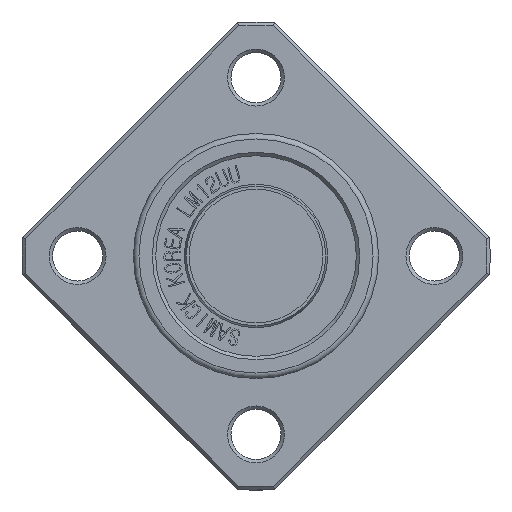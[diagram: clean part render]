
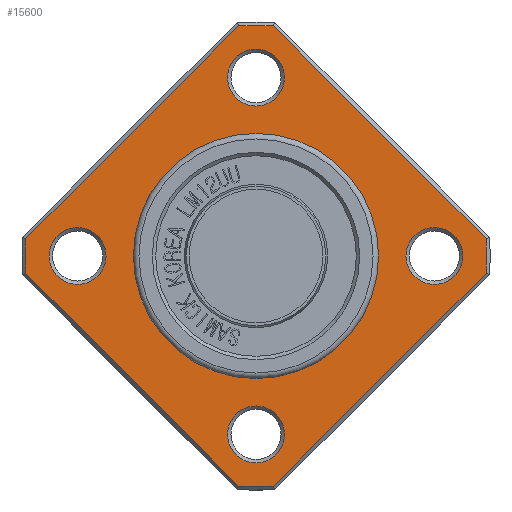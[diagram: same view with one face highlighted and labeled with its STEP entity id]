
A CAD part, front view. The second image highlights one B-rep face of the part: STEP entity #15600.
In plain terms, the highlighted planar face has unit normal (0, -1, 0).
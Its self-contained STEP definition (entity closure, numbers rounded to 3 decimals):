
#2191=FACE_BOUND('',#3366,.T.);
#2192=FACE_BOUND('',#3367,.T.);
#2193=FACE_BOUND('',#3368,.T.);
#2194=FACE_BOUND('',#3369,.T.);
#2195=FACE_BOUND('',#3370,.T.);
#2249=PLANE('',#16500);
#2496=FACE_OUTER_BOUND('',#3365,.T.);
#3365=EDGE_LOOP('',(#10757,#10758,#10759,#10760,#10761,#10762,#10763,#10764));
#3366=EDGE_LOOP('',(#10765));
#3367=EDGE_LOOP('',(#10766));
#3368=EDGE_LOOP('',(#10767,#10768));
#3369=EDGE_LOOP('',(#10769));
#3370=EDGE_LOOP('',(#10770));
#4289=LINE('',#18813,#5447);
#4290=LINE('',#18817,#5448);
#4291=LINE('',#18821,#5449);
#4292=LINE('',#18825,#5450);
#5447=VECTOR('',#16905,10.);
#5448=VECTOR('',#16908,10.);
#5449=VECTOR('',#16911,10.);
#5450=VECTOR('',#16914,10.);
#6612=CIRCLE('',#16498,2.55);
#6614=CIRCLE('',#16501,20.7);
#6615=CIRCLE('',#16502,20.7);
#6616=CIRCLE('',#16503,20.7);
#6617=CIRCLE('',#16504,20.7);
#6618=CIRCLE('',#16505,2.55);
#6619=CIRCLE('',#16506,2.55);
#6620=CIRCLE('',#16507,11.);
#6621=CIRCLE('',#16508,11.);
#6622=CIRCLE('',#16509,2.55);
#6706=VERTEX_POINT('',#18805);
#6708=VERTEX_POINT('',#18811);
#6709=VERTEX_POINT('',#18812);
#6710=VERTEX_POINT('',#18814);
#6711=VERTEX_POINT('',#18816);
#6712=VERTEX_POINT('',#18818);
#6713=VERTEX_POINT('',#18820);
#6714=VERTEX_POINT('',#18822);
#6715=VERTEX_POINT('',#18824);
#6716=VERTEX_POINT('',#18827);
#6717=VERTEX_POINT('',#18829);
#6718=VERTEX_POINT('',#18831);
#6719=VERTEX_POINT('',#18832);
#6720=VERTEX_POINT('',#18835);
#8324=EDGE_CURVE('',#6706,#6706,#6612,.T.);
#8327=EDGE_CURVE('',#6708,#6709,#4289,.T.);
#8328=EDGE_CURVE('',#6708,#6710,#6614,.T.);
#8329=EDGE_CURVE('',#6711,#6710,#4290,.T.);
#8330=EDGE_CURVE('',#6711,#6712,#6615,.T.);
#8331=EDGE_CURVE('',#6713,#6712,#4291,.T.);
#8332=EDGE_CURVE('',#6713,#6714,#6616,.T.);
#8333=EDGE_CURVE('',#6715,#6714,#4292,.T.);
#8334=EDGE_CURVE('',#6715,#6709,#6617,.T.);
#8335=EDGE_CURVE('',#6716,#6716,#6618,.T.);
#8336=EDGE_CURVE('',#6717,#6717,#6619,.T.);
#8337=EDGE_CURVE('',#6718,#6719,#6620,.T.);
#8338=EDGE_CURVE('',#6719,#6718,#6621,.T.);
#8339=EDGE_CURVE('',#6720,#6720,#6622,.T.);
#10757=ORIENTED_EDGE('',*,*,#8327,.F.);
#10758=ORIENTED_EDGE('',*,*,#8328,.T.);
#10759=ORIENTED_EDGE('',*,*,#8329,.F.);
#10760=ORIENTED_EDGE('',*,*,#8330,.T.);
#10761=ORIENTED_EDGE('',*,*,#8331,.F.);
#10762=ORIENTED_EDGE('',*,*,#8332,.T.);
#10763=ORIENTED_EDGE('',*,*,#8333,.F.);
#10764=ORIENTED_EDGE('',*,*,#8334,.T.);
#10765=ORIENTED_EDGE('',*,*,#8335,.F.);
#10766=ORIENTED_EDGE('',*,*,#8336,.F.);
#10767=ORIENTED_EDGE('',*,*,#8337,.F.);
#10768=ORIENTED_EDGE('',*,*,#8338,.F.);
#10769=ORIENTED_EDGE('',*,*,#8339,.F.);
#10770=ORIENTED_EDGE('',*,*,#8324,.F.);
#15600=ADVANCED_FACE('',(#2496,#2191,#2192,#2193,#2194,#2195),#2249,.T.);
#16498=AXIS2_PLACEMENT_3D('',#18806,#16898,#16899);
#16500=AXIS2_PLACEMENT_3D('',#18810,#16903,#16904);
#16501=AXIS2_PLACEMENT_3D('',#18815,#16906,#16907);
#16502=AXIS2_PLACEMENT_3D('',#18819,#16909,#16910);
#16503=AXIS2_PLACEMENT_3D('',#18823,#16912,#16913);
#16504=AXIS2_PLACEMENT_3D('',#18826,#16915,#16916);
#16505=AXIS2_PLACEMENT_3D('',#18828,#16917,#16918);
#16506=AXIS2_PLACEMENT_3D('',#18830,#16919,#16920);
#16507=AXIS2_PLACEMENT_3D('',#18833,#16921,#16922);
#16508=AXIS2_PLACEMENT_3D('',#18834,#16923,#16924);
#16509=AXIS2_PLACEMENT_3D('',#18836,#16925,#16926);
#16898=DIRECTION('center_axis',(0.,-1.,0.));
#16899=DIRECTION('ref_axis',(1.,0.,0.));
#16903=DIRECTION('center_axis',(0.,-1.,0.));
#16904=DIRECTION('ref_axis',(0.,0.,-1.));
#16905=DIRECTION('',(0.707,0.,0.707));
#16906=DIRECTION('center_axis',(0.,-1.,0.));
#16907=DIRECTION('ref_axis',(1.,0.,0.));
#16908=DIRECTION('',(-0.707,0.,0.707));
#16909=DIRECTION('center_axis',(0.,-1.,0.));
#16910=DIRECTION('ref_axis',(1.,0.,0.));
#16911=DIRECTION('',(-0.707,0.,-0.707));
#16912=DIRECTION('center_axis',(0.,-1.,0.));
#16913=DIRECTION('ref_axis',(1.,0.,0.));
#16914=DIRECTION('',(0.707,0.,-0.707));
#16915=DIRECTION('center_axis',(0.,-1.,0.));
#16916=DIRECTION('ref_axis',(1.,0.,0.));
#16917=DIRECTION('center_axis',(0.,-1.,0.));
#16918=DIRECTION('ref_axis',(0.,0.,-1.));
#16919=DIRECTION('center_axis',(0.,-1.,0.));
#16920=DIRECTION('ref_axis',(0.,0.,
1.));
#16921=DIRECTION('center_axis',(0.,-1.,0.));
#16922=DIRECTION('ref_axis',(1.,0.,0.));
#16923=DIRECTION('center_axis',(0.,-1.,0.));
#16924=DIRECTION('ref_axis',(1.,0.,0.));
#16925=DIRECTION('center_axis',(0.,-1.,0.));
#16926=DIRECTION('ref_axis',(-1.,0.,0.));
#18805=CARTESIAN_POINT('',(13.45,16.5,0.));
#18806=CARTESIAN_POINT('Origin',(16.,16.5,0.));
#18810=CARTESIAN_POINT('Origin',(11.,16.5,0.));
#18811=CARTESIAN_POINT('',(-20.641,16.5,1.562));
#18812=CARTESIAN_POINT('',(-1.562,16.5,20.641));
#18813=CARTESIAN_POINT('',(-3.543,16.5,18.66));
#18814=CARTESIAN_POINT('',(-20.641,16.5,-1.562));
#18815=CARTESIAN_POINT('Origin',(0.,16.5,0.));
#18816=CARTESIAN_POINT('',(-1.562,16.5,-20.641));
#18817=CARTESIAN_POINT('',(-13.16,16.5,-9.043));
#18818=CARTESIAN_POINT('',(1.562,16.5,-20.641));
#18819=CARTESIAN_POINT('Origin',(0.,16.5,0.));
#18820=CARTESIAN_POINT('',(20.641,16.5,-1.562));
#18821=CARTESIAN_POINT('',(9.043,16.5,-13.16));
#18822=CARTESIAN_POINT('',(20.641,16.5,1.562));
#18823=CARTESIAN_POINT('Origin',(0.,16.5,0.));
#18824=CARTESIAN_POINT('',(1.562,16.5,20.641));
#18825=CARTESIAN_POINT('',(18.66,16.5,3.543));
#18826=CARTESIAN_POINT('Origin',(0.,16.5,0.));
#18827=CARTESIAN_POINT('',(0.,16.5,-13.45));
#18828=CARTESIAN_POINT('Origin',(0.,16.5,-16.));
#18829=CARTESIAN_POINT('',(0.,16.5,13.45));
#18830=CARTESIAN_POINT('Origin',(0.,16.5,16.));
#18831=CARTESIAN_POINT('',(11.,16.5,0.));
#18832=CARTESIAN_POINT('',(-11.,16.5,0.));
#18833=CARTESIAN_POINT('Origin',(0.,16.5,0.));
#18834=CARTESIAN_POINT('Origin',(0.,16.5,0.));
#18835=CARTESIAN_POINT('',(-13.45,16.5,0.));
#18836=CARTESIAN_POINT('Origin',(-16.,16.5,0.));
